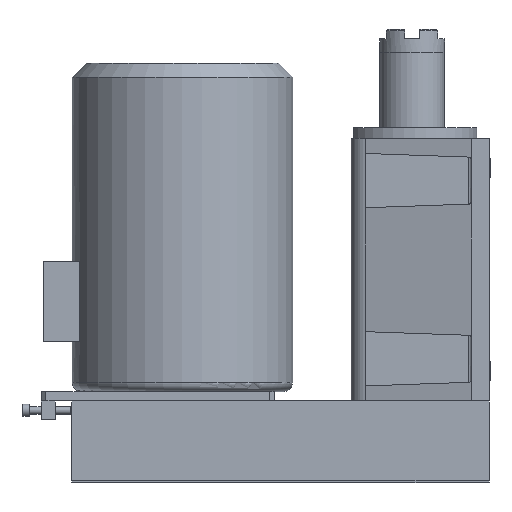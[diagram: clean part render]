
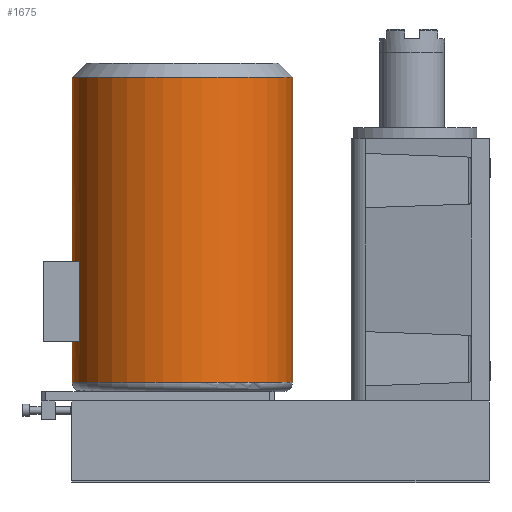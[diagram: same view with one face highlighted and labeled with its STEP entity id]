
A CAD part, left-side view. The second image highlights one B-rep face of the part: STEP entity #1675.
In plain terms, the highlighted cylindrical face has radius 117.5 mm (diameter 235 mm), a full revolution.
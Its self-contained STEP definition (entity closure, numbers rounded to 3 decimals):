
#1608=CARTESIAN_POINT('',(-117.5,245.,20.0));
#1609=VERTEX_POINT('',#1608);
#1610=CARTESIAN_POINT('',(0.0,245.,20.0));
#1611=DIRECTION('',(0.0,0.0,-1.0));
#1612=DIRECTION('',(1.0,0.0,0.0));
#1613=AXIS2_PLACEMENT_3D('',#1610,#1611,#1612);
#1614=CIRCLE('',#1613,117.5);
#1615=EDGE_CURVE('',#1609,#1609,#1614,.T.);
#1620=CARTESIAN_POINT('',(0.0,245.,360.0));
#1621=DIRECTION('',(0.0,0.0,-1.0));
#1622=DIRECTION('',(1.0,0.0,0.0));
#1623=AXIS2_PLACEMENT_3D('',#1620,#1621,#1622);
#1624=CYLINDRICAL_SURFACE('',#1623,117.5);
#1625=CARTESIAN_POINT('',(-117.5,245.,345.0));
#1626=VERTEX_POINT('',#1625);
#1627=CARTESIAN_POINT('',(0.0,245.,345.0));
#1628=DIRECTION('',(0.0,0.0,1.0));
#1629=DIRECTION('',(1.0,0.0,0.0));
#1630=AXIS2_PLACEMENT_3D('',#1627,#1628,#1629);
#1631=CIRCLE('',#1630,117.5);
#1632=EDGE_CURVE('',#1626,#1626,#1631,.T.);
#1633=ORIENTED_EDGE('',*,*,#1632,.F.);
#1634=EDGE_LOOP('',(#1633));
#1635=FACE_OUTER_BOUND('',#1634,.T.);
#1636=CARTESIAN_POINT('',(-43.,354.349,149.0));
#1637=VERTEX_POINT('',#1636);
#1638=CARTESIAN_POINT('',(-43.,354.349,63.));
#1639=VERTEX_POINT('',#1638);
#1640=CARTESIAN_POINT('',(-43.,354.349,149.0));
#1641=DIRECTION('',(0.0,0.0,-1.0));
#1642=VECTOR('',#1641,86.0);
#1643=LINE('',#1640,#1642);
#1644=EDGE_CURVE('',#1637,#1639,#1643,.T.);
#1645=ORIENTED_EDGE('',*,*,#1644,.T.);
#1646=CARTESIAN_POINT('',(43.0,354.349,63.));
#1647=VERTEX_POINT('',#1646);
#1648=CARTESIAN_POINT('',(0.0,245.,63.));
#1649=DIRECTION('',(0.0,0.0,-1.0));
#1650=DIRECTION('',(1.0,0.0,0.0));
#1651=AXIS2_PLACEMENT_3D('',#1648,#1649,#1650);
#1652=CIRCLE('',#1651,117.5);
#1653=EDGE_CURVE('',#1639,#1647,#1652,.T.);
#1654=ORIENTED_EDGE('',*,*,#1653,.T.);
#1655=CARTESIAN_POINT('',(43.0,354.349,149.0));
#1656=VERTEX_POINT('',#1655);
#1657=CARTESIAN_POINT('',(43.0,354.349,63.));
#1658=DIRECTION('',(0.0,0.0,1.0));
#1659=VECTOR('',#1658,86.0);
#1660=LINE('',#1657,#1659);
#1661=EDGE_CURVE('',#1647,#1656,#1660,.T.);
#1662=ORIENTED_EDGE('',*,*,#1661,.T.);
#1663=CARTESIAN_POINT('',(0.0,245.,149.));
#1664=DIRECTION('',(0.0,0.0,1.0));
#1665=DIRECTION('',(1.0,0.0,0.0));
#1666=AXIS2_PLACEMENT_3D('',#1663,#1664,#1665);
#1667=CIRCLE('',#1666,117.5);
#1668=EDGE_CURVE('',#1656,#1637,#1667,.T.);
#1669=ORIENTED_EDGE('',*,*,#1668,.T.);
#1670=EDGE_LOOP('',(#1645,#1654,#1662,#1669));
#1671=FACE_BOUND('',#1670,.T.);
#1672=ORIENTED_EDGE('',*,*,#1615,.F.);
#1673=EDGE_LOOP('',(#1672));
#1674=FACE_BOUND('',#1673,.T.);
#1675=ADVANCED_FACE('',(#1635,#1671,#1674),#1624,.T.);
